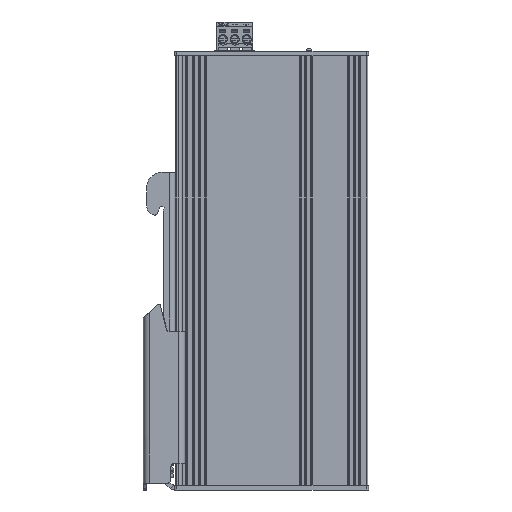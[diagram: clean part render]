
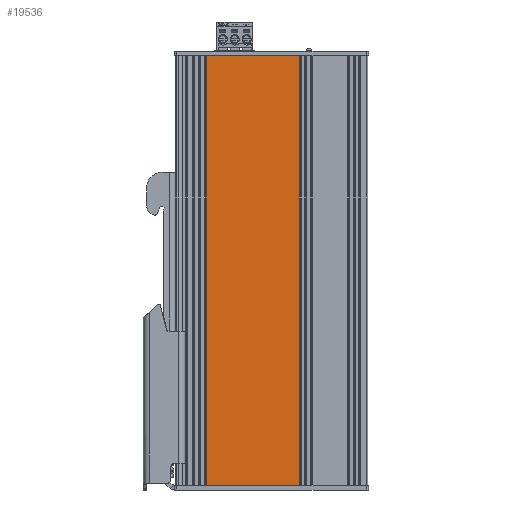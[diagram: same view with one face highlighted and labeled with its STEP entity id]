
A CAD part, front view. The second image highlights one B-rep face of the part: STEP entity #19536.
In plain terms, the highlighted planar face has unit normal (0, -1, 0).
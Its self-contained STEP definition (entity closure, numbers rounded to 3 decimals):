
#16984=CARTESIAN_POINT('',(8.775,-8.5,-68.5));
#16985=VERTEX_POINT('',#16984);
#16992=CARTESIAN_POINT('',(-20.975,-8.5,-68.5));
#16993=VERTEX_POINT('',#16992);
#16994=CARTESIAN_POINT('',(8.775,-8.5,-68.5));
#16995=DIRECTION('',(-1.,-0.,0.));
#16996=VECTOR('',#16995,29.75);
#16997=LINE('',#16994,#16996);
#16998=EDGE_CURVE('',#16985,#16993,#16997,.T.);
#19506=CARTESIAN_POINT('',(-27.125,-8.5,68.5));
#19507=DIRECTION('',(0.,-1.,0.));
#19508=DIRECTION('',(1.,0.,0.));
#19509=AXIS2_PLACEMENT_3D('',#19506,#19507,#19508);
#19510=PLANE('',#19509);
#19511=CARTESIAN_POINT('',(8.775,-8.5,68.5));
#19512=VERTEX_POINT('',#19511);
#19513=CARTESIAN_POINT('',(-20.975,-8.5,68.5));
#19514=VERTEX_POINT('',#19513);
#19515=CARTESIAN_POINT('',(8.775,-8.5,68.5));
#19516=DIRECTION('',(-1.,-0.,0.));
#19517=VECTOR('',#19516,29.75);
#19518=LINE('',#19515,#19517);
#19519=EDGE_CURVE('',#19512,#19514,#19518,.T.);
#19520=ORIENTED_EDGE('',*,*,#19519,.T.);
#19521=CARTESIAN_POINT('',(-20.975,-8.5,68.5));
#19522=DIRECTION('',(0.,0.,-1.));
#19523=VECTOR('',#19522,137.);
#19524=LINE('',#19521,#19523);
#19525=EDGE_CURVE('',#19514,#16993,#19524,.T.);
#19526=ORIENTED_EDGE('',*,*,#19525,.T.);
#19527=ORIENTED_EDGE('',*,*,#16998,.F.);
#19528=CARTESIAN_POINT('',(8.775,-8.5,68.5));
#19529=DIRECTION('',(0.,0.,-1.));
#19530=VECTOR('',#19529,137.);
#19531=LINE('',#19528,#19530);
#19532=EDGE_CURVE('',#19512,#16985,#19531,.T.);
#19533=ORIENTED_EDGE('',*,*,#19532,.F.);
#19534=EDGE_LOOP('',(#19520,#19526,#19527,#19533));
#19535=FACE_BOUND('',#19534,.T.);
#19536=ADVANCED_FACE('',(#19535),#19510,.T.);
